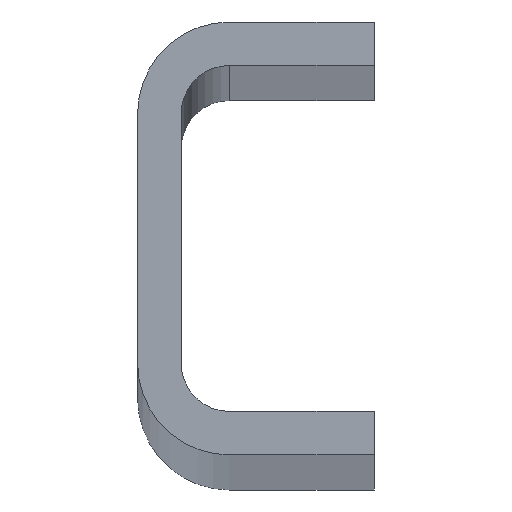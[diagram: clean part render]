
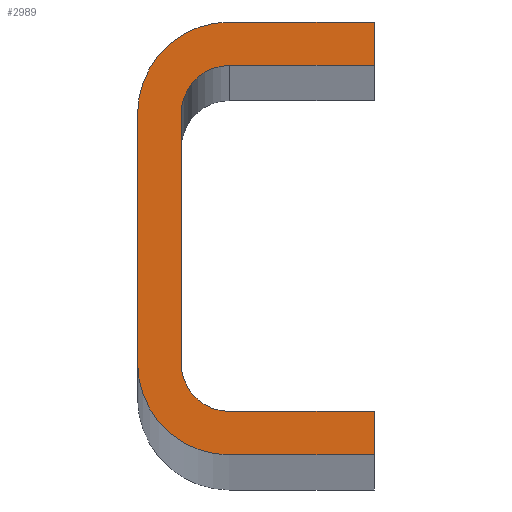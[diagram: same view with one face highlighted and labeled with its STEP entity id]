
A CAD part, top view. The second image highlights one B-rep face of the part: STEP entity #2989.
In plain terms, the highlighted planar face has unit normal (0, 0, 1).
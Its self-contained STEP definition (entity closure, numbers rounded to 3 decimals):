
#3 = VECTOR ( 'NONE', #1656, 1000. ) ;
#7 = VECTOR ( 'NONE', #317, 1000. ) ;
#34 = LINE ( 'NONE', #1992, #3928 ) ;
#91 = AXIS2_PLACEMENT_3D ( 'NONE', #2226, #1103, #3068 ) ;
#124 = CARTESIAN_POINT ( 'NONE',  ( 9.5, 12.9, 0. ) ) ;
#168 = VECTOR ( 'NONE', #3852, 1000. ) ;
#187 = AXIS2_PLACEMENT_3D ( 'NONE', #1104, #1512, #1973 ) ;
#301 = ORIENTED_EDGE ( 'NONE', *, *, #2071, .T. ) ;
#317 = DIRECTION ( 'NONE',  ( 1., 0., 0. ) ) ;
#464 = DIRECTION ( 'NONE',  ( 0., -1., 0. ) ) ;
#536 = CARTESIAN_POINT ( 'NONE',  ( 24.5, 17.9, 0. ) ) ;
#586 = CIRCLE ( 'NONE', #91, 5. ) ;
#601 = PLANE ( 'NONE',  #909 ) ;
#673 = CARTESIAN_POINT ( 'NONE',  ( 24.5, -17.9, 0. ) ) ;
#715 = CARTESIAN_POINT ( 'NONE',  ( 24.5, -22.4, 0. ) ) ;
#734 = ORIENTED_EDGE ( 'NONE', *, *, #2655, .T. ) ;
#741 = CARTESIAN_POINT ( 'NONE',  ( 9.5, 17.9, 0. ) ) ;
#798 = VERTEX_POINT ( 'NONE', #2658 ) ;
#874 = ORIENTED_EDGE ( 'NONE', *, *, #2094, .T. ) ;
#886 = VERTEX_POINT ( 'NONE', #1106 ) ;
#896 = AXIS2_PLACEMENT_3D ( 'NONE', #124, #3286, #2058 ) ;
#898 = EDGE_LOOP ( 'NONE', ( #301, #874, #4777, #2398, #3436, #3085, #734, #2281, #1632, #2440, #2511, #2716 ) ) ;
#909 = AXIS2_PLACEMENT_3D ( 'NONE', #2909, #3649, #3269 ) ;
#1060 = CARTESIAN_POINT ( 'NONE',  ( 24.5, -17.9, 0. ) ) ;
#1103 = DIRECTION ( 'NONE',  ( 0., 0., -1. ) ) ;
#1104 = CARTESIAN_POINT ( 'NONE',  ( 9.5, -12.9, 0. ) ) ;
#1106 = CARTESIAN_POINT ( 'NONE',  ( 0., 12.9, 0. ) ) ;
#1136 = VERTEX_POINT ( 'NONE', #4576 ) ;
#1185 = EDGE_CURVE ( 'NONE', #1748, #1250, #3041, .T. ) ;
#1250 = VERTEX_POINT ( 'NONE', #3190 ) ;
#1348 = CARTESIAN_POINT ( 'NONE',  ( 0., -12.9, 0. ) ) ;
#1420 = CARTESIAN_POINT ( 'NONE',  ( 9.5, 17.9, 0. ) ) ;
#1459 = CIRCLE ( 'NONE', #896, 9.5 ) ;
#1503 = VERTEX_POINT ( 'NONE', #1521 ) ;
#1505 = EDGE_CURVE ( 'NONE', #1136, #2417, #2720, .T. ) ;
#1512 = DIRECTION ( 'NONE',  ( 0., 0., 1. ) ) ;
#1521 = CARTESIAN_POINT ( 'NONE',  ( 24.5, 22.4, 0. ) ) ;
#1606 = EDGE_CURVE ( 'NONE', #798, #886, #1459, .T. ) ;
#1617 = VECTOR ( 'NONE', #4599, 1000. ) ;
#1632 = ORIENTED_EDGE ( 'NONE', *, *, #1185, .T. ) ;
#1656 = DIRECTION ( 'NONE',  ( 0., 1., 0. ) ) ;
#1745 = CARTESIAN_POINT ( 'NONE',  ( 24.5, -22.4, 0. ) ) ;
#1748 = VERTEX_POINT ( 'NONE', #1060 ) ;
#1785 = VECTOR ( 'NONE', #3078, 1000. ) ;
#1886 = DIRECTION ( 'NONE',  ( 0., 1., 0. ) ) ;
#1908 = LINE ( 'NONE', #715, #1959 ) ;
#1959 = VECTOR ( 'NONE', #1886, 1000. ) ;
#1973 = DIRECTION ( 'NONE',  ( 1., 0., 0. ) ) ;
#1992 = CARTESIAN_POINT ( 'NONE',  ( 0., 12.9, 0. ) ) ;
#2058 = DIRECTION ( 'NONE',  ( 1., 0., 0. ) ) ;
#2071 = EDGE_CURVE ( 'NONE', #3281, #4496, #5009, .T. ) ;
#2092 = FACE_OUTER_BOUND ( 'NONE', #898, .T. ) ;
#2094 = EDGE_CURVE ( 'NONE', #4496, #1503, #3187, .T. ) ;
#2108 = VERTEX_POINT ( 'NONE', #1348 ) ;
#2151 = DIRECTION ( 'NONE',  ( -1., 0., 0. ) ) ;
#2171 = CARTESIAN_POINT ( 'NONE',  ( 24.5, 22.4, 0. ) ) ;
#2221 = CARTESIAN_POINT ( 'NONE',  ( 24.5, 17.9, 0. ) ) ;
#2226 = CARTESIAN_POINT ( 'NONE',  ( 9.5, -12.9, 0. ) ) ;
#2272 = LINE ( 'NONE', #2325, #7 ) ;
#2281 = ORIENTED_EDGE ( 'NONE', *, *, #4293, .T. ) ;
#2310 = CARTESIAN_POINT ( 'NONE',  ( 9.5, -22.4, 0. ) ) ;
#2325 = CARTESIAN_POINT ( 'NONE',  ( 9.5, -22.4, 0. ) ) ;
#2398 = ORIENTED_EDGE ( 'NONE', *, *, #1606, .T. ) ;
#2417 = VERTEX_POINT ( 'NONE', #4922 ) ;
#2440 = ORIENTED_EDGE ( 'NONE', *, *, #2685, .T. ) ;
#2511 = ORIENTED_EDGE ( 'NONE', *, *, #1505, .T. ) ;
#2623 = VECTOR ( 'NONE', #2151, 1000. ) ;
#2655 = EDGE_CURVE ( 'NONE', #3143, #4390, #2272, .T. ) ;
#2658 = CARTESIAN_POINT ( 'NONE',  ( 9.5, 22.4, 0. ) ) ;
#2685 = EDGE_CURVE ( 'NONE', #1250, #1136, #586, .T. ) ;
#2716 = ORIENTED_EDGE ( 'NONE', *, *, #3504, .T. ) ;
#2720 = LINE ( 'NONE', #3895, #1785 ) ;
#2790 = DIRECTION ( 'NONE',  ( 0., 0., -1. ) ) ;
#2909 = CARTESIAN_POINT ( 'NONE',  ( 9.5, 12.9, 0. ) ) ;
#2989 = ADVANCED_FACE ( 'NONE', ( #2092 ), #601, .T. ) ;
#3041 = LINE ( 'NONE', #673, #1617 ) ;
#3068 = DIRECTION ( 'NONE',  ( -1., 0., 0. ) ) ;
#3078 = DIRECTION ( 'NONE',  ( 0., 1., 0. ) ) ;
#3085 = ORIENTED_EDGE ( 'NONE', *, *, #3443, .T. ) ;
#3143 = VERTEX_POINT ( 'NONE', #2310 ) ;
#3187 = LINE ( 'NONE', #536, #3 ) ;
#3190 = CARTESIAN_POINT ( 'NONE',  ( 9.5, -17.9, 0. ) ) ;
#3269 = DIRECTION ( 'NONE',  ( 1., 0., 0. ) ) ;
#3281 = VERTEX_POINT ( 'NONE', #1420 ) ;
#3286 = DIRECTION ( 'NONE',  ( 0., 0., 1. ) ) ;
#3362 = CIRCLE ( 'NONE', #187, 9.5 ) ;
#3436 = ORIENTED_EDGE ( 'NONE', *, *, #4705, .T. ) ;
#3443 = EDGE_CURVE ( 'NONE', #2108, #3143, #3362, .T. ) ;
#3504 = EDGE_CURVE ( 'NONE', #2417, #3281, #4421, .T. ) ;
#3649 = DIRECTION ( 'NONE',  ( 0., 0., 1. ) ) ;
#3779 = EDGE_CURVE ( 'NONE', #1503, #798, #4173, .T. ) ;
#3852 = DIRECTION ( 'NONE',  ( 1., 0., 0. ) ) ;
#3895 = CARTESIAN_POINT ( 'NONE',  ( 4.5, -12.9, 0. ) ) ;
#3928 = VECTOR ( 'NONE', #464, 1000. ) ;
#3941 = CARTESIAN_POINT ( 'NONE',  ( 9.5, 12.9, 0. ) ) ;
#4019 = DIRECTION ( 'NONE',  ( -1., 0., 0. ) ) ;
#4173 = LINE ( 'NONE', #2171, #2623 ) ;
#4293 = EDGE_CURVE ( 'NONE', #4390, #1748, #1908, .T. ) ;
#4340 = AXIS2_PLACEMENT_3D ( 'NONE', #3941, #2790, #4019 ) ;
#4390 = VERTEX_POINT ( 'NONE', #1745 ) ;
#4421 = CIRCLE ( 'NONE', #4340, 5. ) ;
#4496 = VERTEX_POINT ( 'NONE', #2221 ) ;
#4576 = CARTESIAN_POINT ( 'NONE',  ( 4.5, -12.9, 0. ) ) ;
#4599 = DIRECTION ( 'NONE',  ( -1., 0., 0. ) ) ;
#4705 = EDGE_CURVE ( 'NONE', #886, #2108, #34, .T. ) ;
#4777 = ORIENTED_EDGE ( 'NONE', *, *, #3779, .T. ) ;
#4922 = CARTESIAN_POINT ( 'NONE',  ( 4.5, 12.9, 0. ) ) ;
#5009 = LINE ( 'NONE', #741, #168 ) ;
